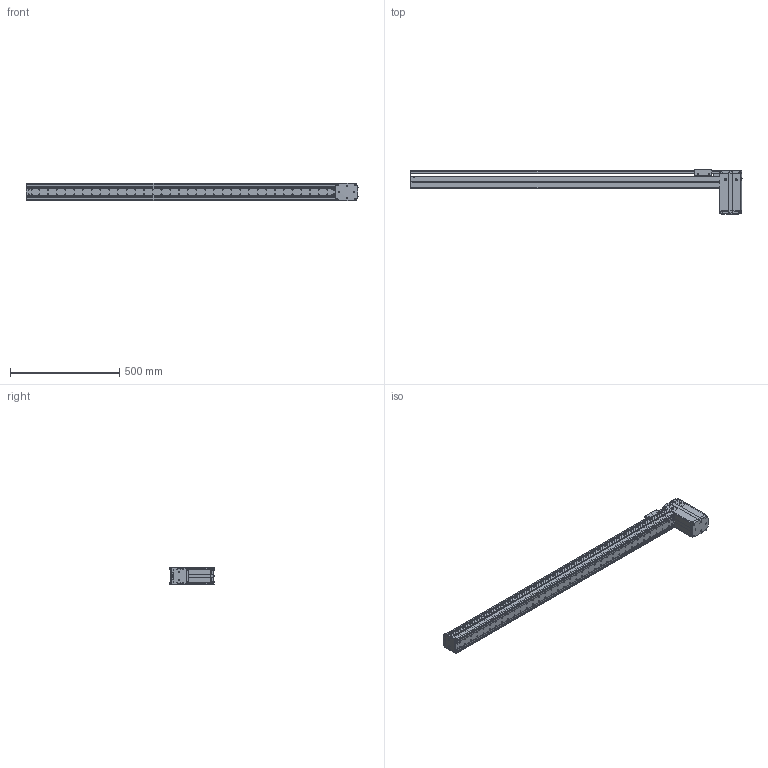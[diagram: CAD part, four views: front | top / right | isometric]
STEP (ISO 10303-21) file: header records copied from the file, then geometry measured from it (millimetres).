
FILE_DESCRIPTION((''),'2;1');
FILE_NAME('BE10_-BU-S_N-C5_IGS_PRT','2017-06-18T',(' '),(''),'PRO/ENGINEER BY PARAMETRIC TECHNOLOGY CORPORATION, 2015030','PRO/ENGINEER BY PARAMETRIC TECHNOLOGY CORPORATION, 2015030','');
FILE_SCHEMA(('CONFIG_CONTROL_DESIGN'));
Products named in the file (1): BE10_-BU-S_N-C5_IGS_PRT
Bounding box: 1520.8 x 202.72 x 78 mm (x, y, z)
Volume: 2112318.4 mm3; surface area: 1438397 mm2
Topology: 2 solids, 165 shells, 2196 faces, 6015 edges, 3987 vertices
Faces by surface type: plane 1058, cylinder 979, cone 103, sphere 28, torus 25, bspline 3
Entity records: 71777 total; most frequent: CARTESIAN_POINT 14768, DIRECTION 12093, ORIENTED_EDGE 11366, EDGE_CURVE 5961, AXIS2_PLACEMENT_3D 4363, VERTEX_POINT 3987, VECTOR 3367, LINE 3367
